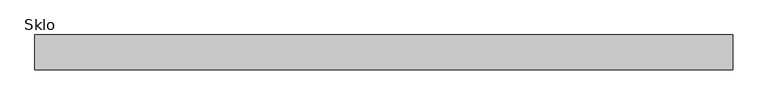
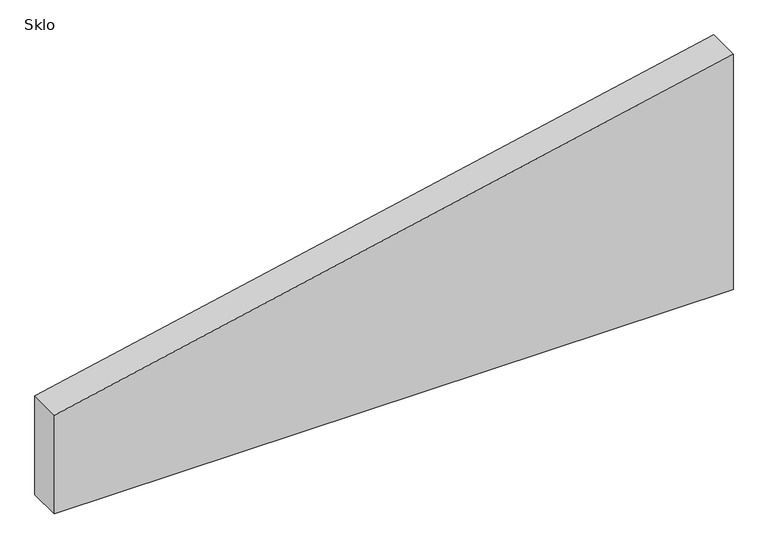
"""IFC4 building model written with IfcOpenShell, lengths in millimetres: plate geometry, Systémový panel : Sklo."""

from ifc_helpers import new_model, si_unit, frame, origin, place, context, project, spatial, polyline, outline, extrude, source, transform, mapped, element, save


def sklo_a22fa24e(model_context):
    return source(origin(), model_context, "Body", "SweptSolid", [
        extrude(outline(polyline([(0.0, -1000.0), (0.0, 1000.0), (733.5169698, 1000.0), (308.4038465, -1000.0), (0.0, -1000.0)])), frame((0.0, 50.0, 0.0), z_axis=(0.0, 1.0, 0.0), x_axis=(0.0, 0.0, 1.0)), (0.0, 0.0, 1.0), 100.0),
    ])


if __name__ == "__main__":
    model = new_model("IFC4")
    model_context = context("Model", 3, world=origin())
    ifc_project = project(units=[si_unit("LENGTHUNIT", "METRE", prefix="MILLI")], contexts=[model_context])
    site = spatial("IfcSite", under=ifc_project)
    building = spatial("IfcBuilding", under=site)
    placement = place(None, origin())
    sklo_shape = sklo_a22fa24e(model_context)
    element("IfcPlate", 1, ObjectType="Systémový panel : Sklo", at=placement, inside=building, context=model_context, shape_type="MappedRepresentation", body=[
        mapped(sklo_shape, transform((0.0, 0.0, 0.0), x_axis=(1.0, 0.0, 0.0), y_axis=(0.0, 1.0, 0.0), z_axis=(0.0, 0.0, 1.0))),
    ])
    save(model, "model.ifc")
